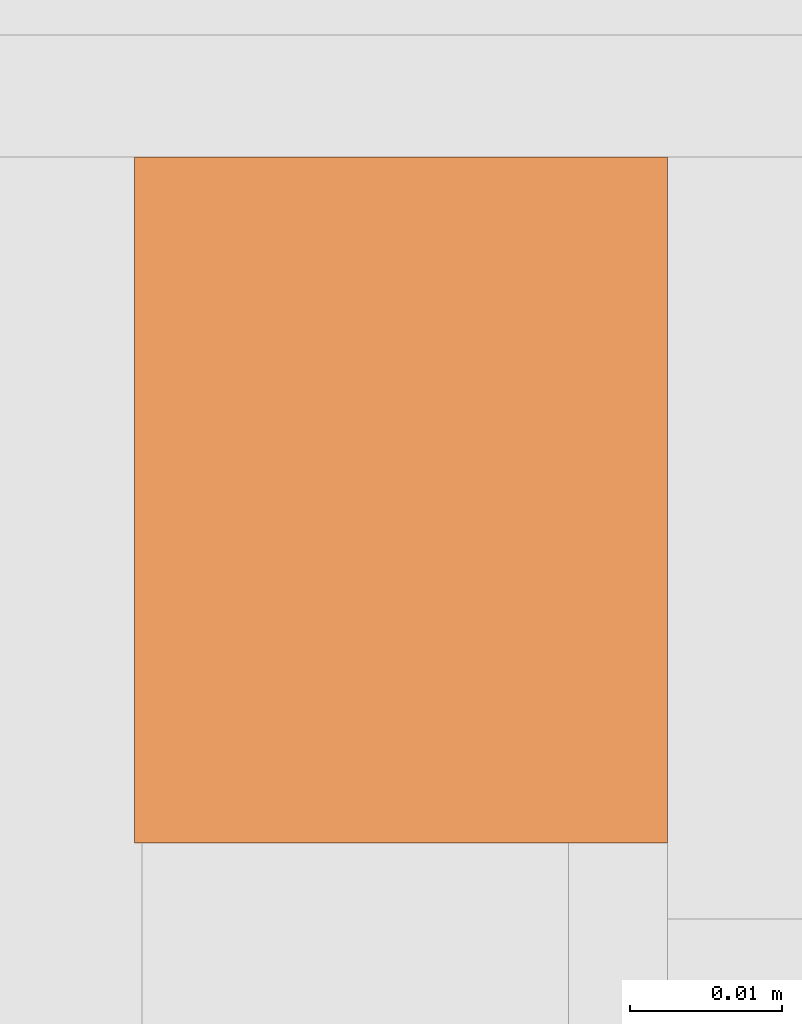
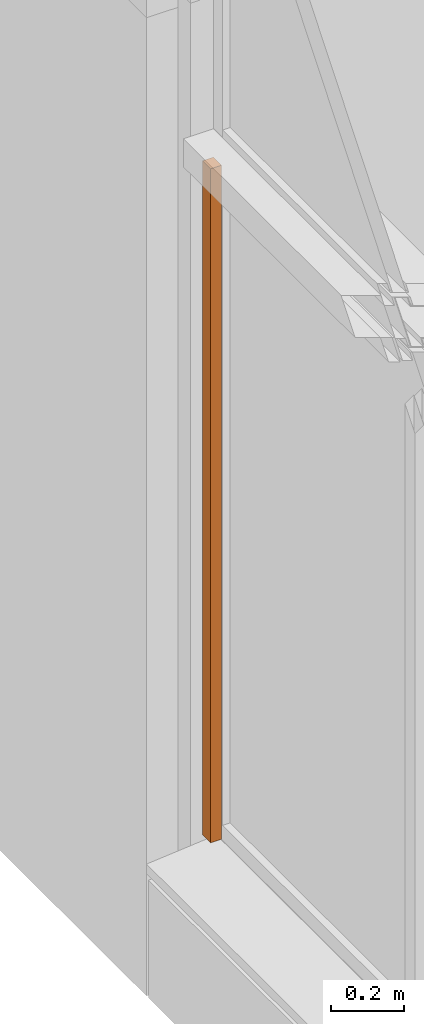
# One storey, part 320 of 338: 1 proxy.
"""IFC2X3 building model written with IfcOpenShell, lengths in millimetres."""

from ifc_helpers import new_model, entity, si_unit, converted_unit, derived_unit, money_unit, direction, frame, origin_with_axes, place, context, subcontext, project, spatial, faceted_brep, material, type_object, element, save


model = new_model("IFC2X3")

# Units and contexts
model_context = context("Model", 3, precision=0.01, world=origin_with_axes(), true_north=direction((0.0, 1.0)))
plan_context = context("Plan", 3, precision=0.01, world=origin_with_axes(), true_north=direction((0.0, 1.0)))
body_context = subcontext(model_context, "Body", "Model", "MODEL_VIEW")
ifc_project = project(units=[si_unit("LENGTHUNIT", "METRE", prefix="MILLI"), si_unit("AREAUNIT", "SQUARE_METRE"), si_unit("VOLUMEUNIT", "CUBIC_METRE"), converted_unit("PLANEANGLEUNIT", "DEGREE", entity("IfcPlaneAngleMeasure", 0.0174532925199), si_unit("PLANEANGLEUNIT", "RADIAN"), dimensions=[0, 0, 0, 0, 0, 0, 0]), money_unit("EUR"), converted_unit("TIMEUNIT", "Year", entity("IfcTimeMeasure", 31556926.0), si_unit("TIMEUNIT", "SECOND"), dimensions=[0, 0, 1, 0, 0, 0, 0]), si_unit("MASSUNIT", "GRAM", prefix="KILO"), si_unit("THERMODYNAMICTEMPERATUREUNIT", "DEGREE_CELSIUS"), si_unit("LUMINOUSINTENSITYUNIT", "LUMEN"), si_unit("ENERGYUNIT", "JOULE", prefix="MEGA"), derived_unit("THERMALCONDUCTANCEUNIT", [(si_unit("POWERUNIT", "WATT"), 1), (si_unit("LENGTHUNIT", "METRE"), -1), (si_unit("THERMODYNAMICTEMPERATUREUNIT", "KELVIN"), -1)]), derived_unit("SPECIFICHEATCAPACITYUNIT", [(si_unit("ENERGYUNIT", "JOULE"), 1), (si_unit("MASSUNIT", "GRAM", prefix="KILO"), -1), (si_unit("THERMODYNAMICTEMPERATUREUNIT", "KELVIN"), -1)]), derived_unit("MASSDENSITYUNIT", [(si_unit("MASSUNIT", "GRAM", prefix="KILO"), 1), (si_unit("VOLUMEUNIT", "CUBIC_METRE"), -1)])], contexts=[model_context, plan_context])

# Site, building, storey
site_placement = place(None, origin_with_axes())
site = spatial("IfcSite", under=ifc_project, at=site_placement, Name="Fortuinstraat Woensdrecht", CompositionType="ELEMENT")
building_placement = place(site_placement, origin_with_axes())
building = spatial("IfcBuilding", under=site, at=building_placement, Name="IKC Fortuna", CompositionType="ELEMENT")
storey_placement = place(building_placement, origin_with_axes())
storey = spatial("IfcBuildingStorey", under=building, at=storey_placement, Name="00 begane grond", CompositionType="ELEMENT", Elevation=0.0)

# Proxy
ifc_material = material(Name="Aluminium RAL 7032")
building_element_proxy_type = type_object("IfcBuildingElementProxyType", Name="Aluminium RAL 7032 45 x 35", PredefinedType="USERDEFINED")
proxy_placement = place(storey_placement, frame((13505.9121752, 15671.7768159, 0.610984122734), z_axis=(0.0, 0.0, 1.0), x_axis=(0.0, -1.0, 0.0)))
element("IfcBuildingElementProxy", 1, at=proxy_placement, inside=storey, type_object=building_element_proxy_type, material=ifc_material, Name="65_Zonwering_zonwering", ObjectType="Construction Element", context=body_context, shape_type="Brep", body=[
    faceted_brep([(-22.5, -17.5, 2263.38901598), (-22.5, -17.5, 0.0), (22.5, -17.5, 0.0), (22.5, -17.5, 2263.38901598), (-22.5, 17.5, 2263.38901598), (-22.5, 17.5, 0.0), (22.5, 17.5, 0.0), (22.5, 17.5, 2263.38901598)], [[[0, 1, 2, 3]], [[4, 5, 1, 0]], [[2, 1, 5, 6]], [[3, 2, 6, 7]], [[4, 0, 3, 7]], [[7, 6, 5, 4]]]),
])

save(model, "model.ifc")
